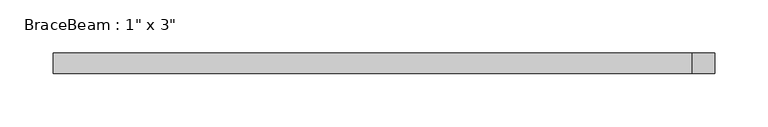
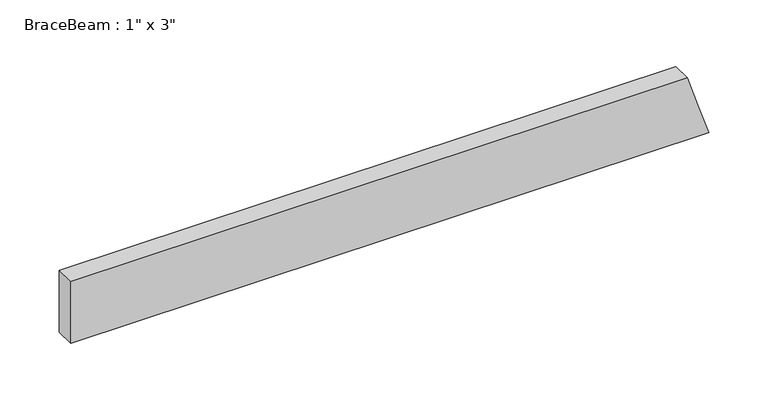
"""IFC4 building model written with IfcOpenShell, lengths in millimetres: beam geometry."""

from ifc_helpers import new_model, si_unit, origin, place, context, project, spatial, faceted_brep, source, transform, mapped, element, save


def beam_1adaeaea(model_context):
    return source(origin(), model_context, "Body", "Brep", [
        faceted_brep([(-305.1644227, -9.525, -31.75), (-305.1644227, 9.525, -31.75), (313.8789002, 9.525, -31.75), (313.8789002, -9.525, -31.75), (-305.1644227, 9.525, 31.75), (293.1532058, 9.525, 31.75), (303.516053, 9.525, 0.0), (-305.1644227, -9.525, 31.75), (293.1532058, -9.525, 31.75), (303.516053, -9.525, 0.0)], [[[0, 1, 2, 3]], [[1, 4, 5, 6, 2]], [[4, 7, 8, 5]], [[7, 0, 3, 9, 8]], [[7, 4, 1, 0]], [[5, 8, 9, 3, 2, 6]]]),
    ])


if __name__ == "__main__":
    model = new_model("IFC4")
    model_context = context("Model", 3, world=origin())
    ifc_project = project(units=[si_unit("LENGTHUNIT", "METRE", prefix="MILLI")], contexts=[model_context])
    site = spatial("IfcSite", under=ifc_project)
    building = spatial("IfcBuilding", under=site)
    placement = place(None, origin())
    beam_shape = beam_1adaeaea(model_context)
    element("IfcBeam", 1, ObjectType="BraceBeam : 1\" x 3\"", at=placement, inside=building, context=model_context, shape_type="MappedRepresentation", body=[
        mapped(beam_shape, transform((0.0, 0.0, 0.0), x_axis=(1.0, 0.0, 0.0), y_axis=(0.0, 1.0, 0.0), z_axis=(0.0, 0.0, 1.0))),
    ])
    save(model, "model.ifc")
